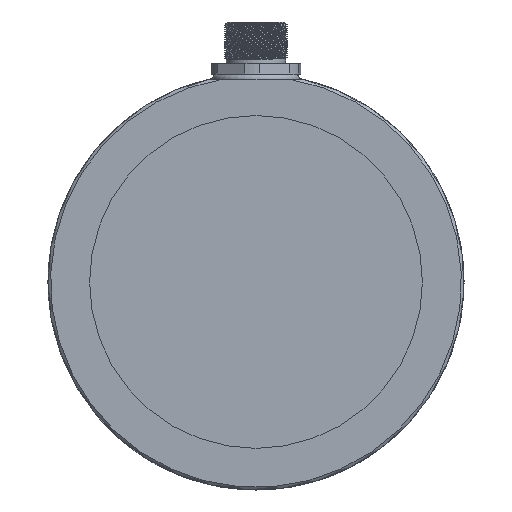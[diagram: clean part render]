
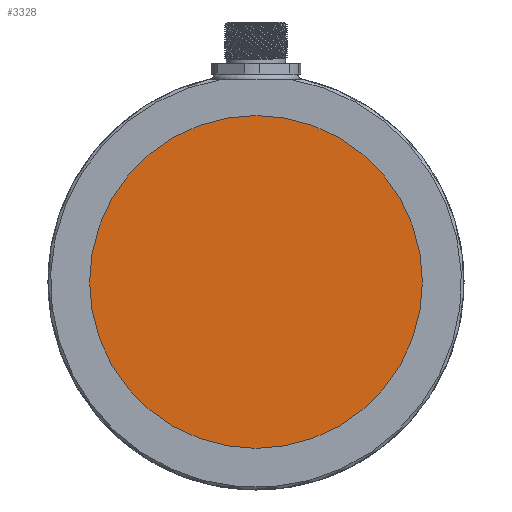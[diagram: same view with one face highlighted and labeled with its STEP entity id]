
A CAD part, left-side view. The second image highlights one B-rep face of the part: STEP entity #3328.
In plain terms, the highlighted planar face has unit normal (-1, 0, 0).
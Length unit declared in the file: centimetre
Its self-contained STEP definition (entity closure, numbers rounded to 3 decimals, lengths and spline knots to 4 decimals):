
#853=CIRCLE('',#3546,3.2);
#966=VERTEX_POINT('',#4381);
#1550=EDGE_CURVE('',#966,#966,#853,.T.);
#2008=ORIENTED_EDGE('',*,*,#1550,.T.);
#2833=EDGE_LOOP('',(#2008));
#3083=FACE_BOUND('',#2833,.T.);
#3328=ADVANCED_FACE('',(#3083),#19461,.T.);
#3546=AXIS2_PLACEMENT_3D('',#4380,#3819,#3820);
#3548=AXIS2_PLACEMENT_3D('',#4384,#3823,$);
#3819=DIRECTION('',(-1.,0.,0.));
#3820=DIRECTION('',(0.,0.,3.2));
#3823=DIRECTION('',(-1.,0.,0.));
#4380=CARTESIAN_POINT('',(0.1,0.,0.));
#4381=CARTESIAN_POINT('',(0.1,0.,3.2));
#4384=CARTESIAN_POINT('',(0.1,0.,0.));
#19461=PLANE('',#3548);
